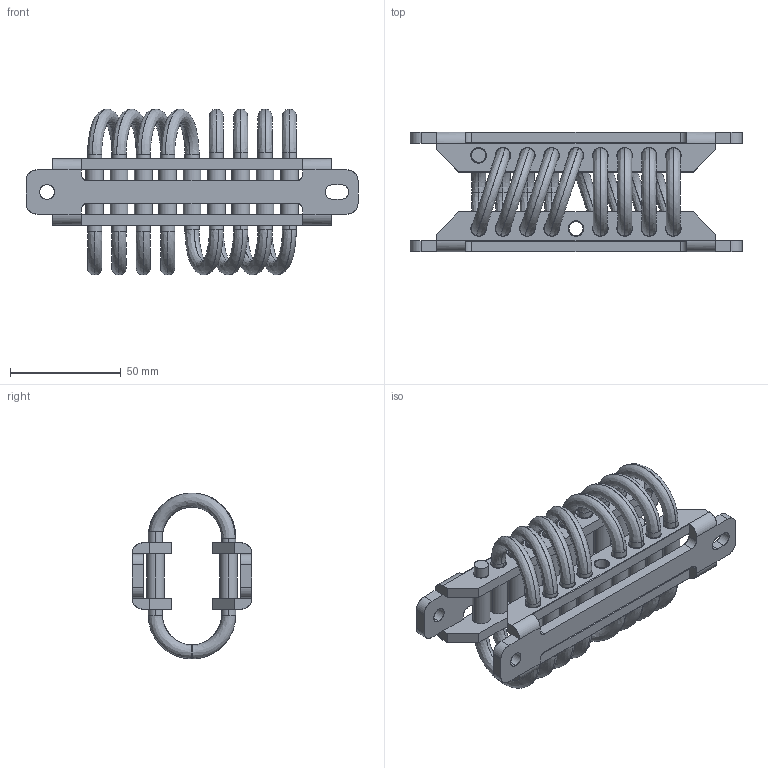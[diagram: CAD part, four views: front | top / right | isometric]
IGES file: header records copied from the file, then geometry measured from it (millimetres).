
Start section: SolidWorks IGES file using analytic representation for surfaces
Bounding box: 150 x 54.1 x 74.99 mm (x, y, z)
Surface area: 68040.8 mm2 (no closed solid volume)
Topology: 0 solids, 0 shells, 284 faces, 6520 edges, 6520 vertices
Faces by surface type: revolution 142, bspline 142
